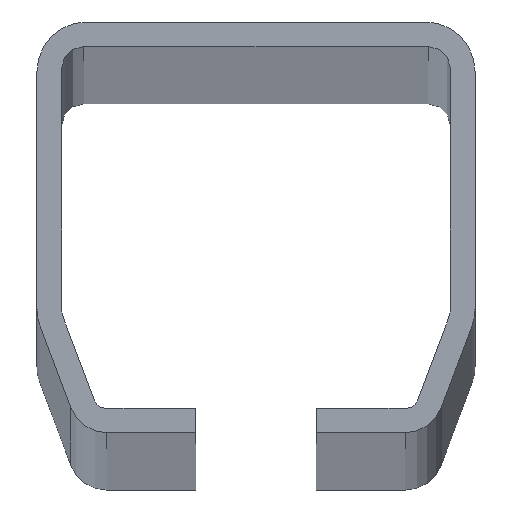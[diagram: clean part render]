
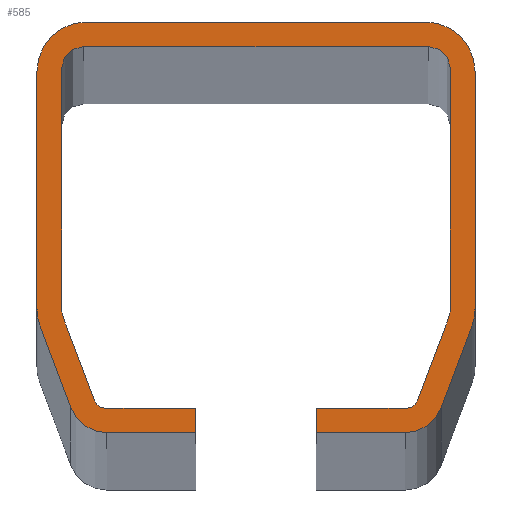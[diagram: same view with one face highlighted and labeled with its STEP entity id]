
A CAD part, top view. The second image highlights one B-rep face of the part: STEP entity #585.
In plain terms, the highlighted planar face has unit normal (0, 0, 1).
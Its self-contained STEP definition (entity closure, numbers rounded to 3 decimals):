
#31=PLANE('',#641);
#61=FACE_OUTER_BOUND('',#91,.T.);
#91=EDGE_LOOP('',(#489,#490,#491,#492,#493,#494,#495,#496,#497,#498,#499,
#500,#501,#502,#503,#504,#505,#506,#507,#508,#509,#510,#511,#512,#513,#514,
#515,#516));
#95=LINE('',#825,#155);
#99=LINE('',#837,#159);
#103=LINE('',#849,#163);
#107=LINE('',#861,#167);
#111=LINE('',#873,#171);
#115=LINE('',#885,#175);
#118=LINE('',#891,#178);
#121=LINE('',#897,#181);
#125=LINE('',#909,#185);
#129=LINE('',#921,#189);
#133=LINE('',#933,#193);
#137=LINE('',#945,#197);
#141=LINE('',#957,#201);
#145=LINE('',#969,#205);
#148=LINE('',#975,#208);
#151=LINE('',#980,#211);
#155=VECTOR('',#655,16.385);
#159=VECTOR('',#667,43.957);
#163=VECTOR('',#679,63.);
#167=VECTOR('',#691,43.957);
#171=VECTOR('',#703,16.385);
#175=VECTOR('',#715,16.614);
#178=VECTOR('',#720,4.5);
#181=VECTOR('',#725,16.268);
#185=VECTOR('',#737,15.948);
#189=VECTOR('',#749,43.367);
#193=VECTOR('',#761,62.);
#197=VECTOR('',#773,43.367);
#201=VECTOR('',#785,15.948);
#205=VECTOR('',#797,16.268);
#208=VECTOR('',#802,4.5);
#211=VECTOR('',#807,16.614);
#213=CIRCLE('',#590,2.);
#215=CIRCLE('',#594,4.);
#217=CIRCLE('',#598,4.);
#219=CIRCLE('',#602,4.);
#221=CIRCLE('',#606,4.);
#223=CIRCLE('',#610,2.);
#225=CIRCLE('',#616,7.);
#227=CIRCLE('',#620,9.);
#229=CIRCLE('',#624,9.);
#231=CIRCLE('',#628,9.);
#233=CIRCLE('',#632,9.);
#235=CIRCLE('',#636,7.);
#237=VERTEX_POINT('',#815);
#238=VERTEX_POINT('',#816);
#241=VERTEX_POINT('',#824);
#243=VERTEX_POINT('',#830);
#245=VERTEX_POINT('',#836);
#247=VERTEX_POINT('',#842);
#249=VERTEX_POINT('',#848);
#251=VERTEX_POINT('',#854);
#253=VERTEX_POINT('',#860);
#255=VERTEX_POINT('',#866);
#257=VERTEX_POINT('',#872);
#259=VERTEX_POINT('',#878);
#261=VERTEX_POINT('',#884);
#263=VERTEX_POINT('',#890);
#265=VERTEX_POINT('',#896);
#267=VERTEX_POINT('',#902);
#269=VERTEX_POINT('',#908);
#271=VERTEX_POINT('',#914);
#273=VERTEX_POINT('',#920);
#275=VERTEX_POINT('',#926);
#277=VERTEX_POINT('',#932);
#279=VERTEX_POINT('',#938);
#281=VERTEX_POINT('',#944);
#283=VERTEX_POINT('',#950);
#285=VERTEX_POINT('',#956);
#287=VERTEX_POINT('',#962);
#289=VERTEX_POINT('',#968);
#291=VERTEX_POINT('',#974);
#293=EDGE_CURVE('',#237,#238,#213,.T.);
#297=EDGE_CURVE('',#238,#241,#95,.T.);
#300=EDGE_CURVE('',#241,#243,#215,.T.);
#303=EDGE_CURVE('',#243,#245,#99,.T.);
#306=EDGE_CURVE('',#245,#247,#217,.T.);
#309=EDGE_CURVE('',#247,#249,#103,.T.);
#312=EDGE_CURVE('',#249,#251,#219,.T.);
#315=EDGE_CURVE('',#251,#253,#107,.T.);
#318=EDGE_CURVE('',#253,#255,#221,.T.);
#321=EDGE_CURVE('',#255,#257,#111,.T.);
#324=EDGE_CURVE('',#257,#259,#223,.T.);
#327=EDGE_CURVE('',#259,#261,#115,.T.);
#330=EDGE_CURVE('',#261,#263,#118,.T.);
#333=EDGE_CURVE('',#263,#265,#121,.T.);
#336=EDGE_CURVE('',#265,#267,#225,.T.);
#339=EDGE_CURVE('',#267,#269,#125,.T.);
#342=EDGE_CURVE('',#269,#271,#227,.T.);
#345=EDGE_CURVE('',#271,#273,#129,.T.);
#348=EDGE_CURVE('',#273,#275,#229,.T.);
#351=EDGE_CURVE('',#275,#277,#133,.T.);
#354=EDGE_CURVE('',#277,#279,#231,.T.);
#357=EDGE_CURVE('',#279,#281,#137,.T.);
#360=EDGE_CURVE('',#281,#283,#233,.T.);
#363=EDGE_CURVE('',#283,#285,#141,.T.);
#366=EDGE_CURVE('',#285,#287,#235,.T.);
#369=EDGE_CURVE('',#287,#289,#145,.T.);
#372=EDGE_CURVE('',#289,#291,#148,.T.);
#375=EDGE_CURVE('',#291,#237,#151,.T.);
#489=ORIENTED_EDGE('',*,*,#293,.F.);
#490=ORIENTED_EDGE('',*,*,#375,.F.);
#491=ORIENTED_EDGE('',*,*,#372,.F.);
#492=ORIENTED_EDGE('',*,*,#369,.F.);
#493=ORIENTED_EDGE('',*,*,#366,.F.);
#494=ORIENTED_EDGE('',*,*,#363,.F.);
#495=ORIENTED_EDGE('',*,*,#360,.F.);
#496=ORIENTED_EDGE('',*,*,#357,.F.);
#497=ORIENTED_EDGE('',*,*,#354,.F.);
#498=ORIENTED_EDGE('',*,*,#351,.F.);
#499=ORIENTED_EDGE('',*,*,#348,.F.);
#500=ORIENTED_EDGE('',*,*,#345,.F.);
#501=ORIENTED_EDGE('',*,*,#342,.F.);
#502=ORIENTED_EDGE('',*,*,#339,.F.);
#503=ORIENTED_EDGE('',*,*,#336,.F.);
#504=ORIENTED_EDGE('',*,*,#333,.F.);
#505=ORIENTED_EDGE('',*,*,#330,.F.);
#506=ORIENTED_EDGE('',*,*,#327,.F.);
#507=ORIENTED_EDGE('',*,*,#324,.F.);
#508=ORIENTED_EDGE('',*,*,#321,.F.);
#509=ORIENTED_EDGE('',*,*,#318,.F.);
#510=ORIENTED_EDGE('',*,*,#315,.F.);
#511=ORIENTED_EDGE('',*,*,#312,.F.);
#512=ORIENTED_EDGE('',*,*,#309,.F.);
#513=ORIENTED_EDGE('',*,*,#306,.F.);
#514=ORIENTED_EDGE('',*,*,#303,.F.);
#515=ORIENTED_EDGE('',*,*,#300,.F.);
#516=ORIENTED_EDGE('',*,*,#297,.F.);
#585=ADVANCED_FACE('',(#61),#31,.T.);
#590=AXIS2_PLACEMENT_3D('',#817,#647,#648);
#594=AXIS2_PLACEMENT_3D('',#831,#660,#661);
#598=AXIS2_PLACEMENT_3D('',#843,#672,#673);
#602=AXIS2_PLACEMENT_3D('',#855,#684,#685);
#606=AXIS2_PLACEMENT_3D('',#867,#696,#697);
#610=AXIS2_PLACEMENT_3D('',#879,#708,#709);
#616=AXIS2_PLACEMENT_3D('',#903,#730,#731);
#620=AXIS2_PLACEMENT_3D('',#915,#742,#743);
#624=AXIS2_PLACEMENT_3D('',#927,#754,#755);
#628=AXIS2_PLACEMENT_3D('',#939,#766,#767);
#632=AXIS2_PLACEMENT_3D('',#951,#778,#779);
#636=AXIS2_PLACEMENT_3D('',#963,#790,#791);
#641=AXIS2_PLACEMENT_3D('',#982,#809,#810);
#647=DIRECTION('center_axis',(0.,0.,1.));
#648=DIRECTION('ref_axis',(0.,-1.,0.));
#655=DIRECTION('',(0.351,0.936,0.));
#660=DIRECTION('center_axis',(0.,0.,1.));
#661=DIRECTION('ref_axis',(0.936,-0.351,0.));
#667=DIRECTION('',(0.,1.,0.));
#672=DIRECTION('center_axis',(0.,0.,1.));
#673=DIRECTION('ref_axis',(1.,0.,0.));
#679=DIRECTION('',(-1.,0.,0.));
#684=DIRECTION('center_axis',(0.,0.,1.));
#685=DIRECTION('ref_axis',(0.,1.,0.));
#691=DIRECTION('',(0.,-1.,0.));
#696=DIRECTION('center_axis',(0.,0.,1.));
#697=DIRECTION('ref_axis',(-1.,0.,0.));
#703=DIRECTION('',(0.351,-0.936,0.));
#708=DIRECTION('center_axis',(0.,0.,1.));
#709=DIRECTION('ref_axis',(-0.936,-0.351,0.));
#715=DIRECTION('',(1.,0.,0.));
#720=DIRECTION('',(0.,-1.,0.));
#725=DIRECTION('',(-1.,0.,0.));
#730=DIRECTION('center_axis',(0.,0.,-1.));
#731=DIRECTION('ref_axis',(0.936,0.351,0.));
#737=DIRECTION('',(-0.351,0.936,0.));
#742=DIRECTION('center_axis',(0.,0.,-1.));
#743=DIRECTION('ref_axis',(1.,0.,0.));
#749=DIRECTION('',(0.,1.,0.));
#754=DIRECTION('center_axis',(0.,0.,-1.));
#755=DIRECTION('ref_axis',(0.,-1.,0.));
#761=DIRECTION('',(1.,0.,0.));
#766=DIRECTION('center_axis',(0.,0.,-1.));
#767=DIRECTION('ref_axis',(-1.,0.,0.));
#773=DIRECTION('',(0.,-1.,0.));
#778=DIRECTION('center_axis',(0.,0.,-1.));
#779=DIRECTION('ref_axis',(-0.936,0.351,0.));
#785=DIRECTION('',(-0.351,-0.936,0.));
#790=DIRECTION('center_axis',(0.,0.,-1.));
#791=DIRECTION('ref_axis',(0.,1.,0.));
#797=DIRECTION('',(-1.,0.,0.));
#802=DIRECTION('',(0.,1.,0.));
#807=DIRECTION('',(1.,0.,0.));
#809=DIRECTION('center_axis',(0.,0.,1.));
#810=DIRECTION('ref_axis',(1.,0.,0.));
#815=CARTESIAN_POINT('',(27.614,-66.,6000.));
#816=CARTESIAN_POINT('',(29.487,-64.703,6000.));
#817=CARTESIAN_POINT('Origin',(27.614,-64.,6000.));
#824=CARTESIAN_POINT('',(35.245,-49.363,6000.));
#825=CARTESIAN_POINT('',(29.487,-64.703,6000.));
#830=CARTESIAN_POINT('',(35.5,-47.957,6000.));
#831=CARTESIAN_POINT('Origin',(31.5,-47.957,6000.));
#836=CARTESIAN_POINT('',(35.5,-4.,6000.));
#837=CARTESIAN_POINT('',(35.5,-47.957,6000.));
#842=CARTESIAN_POINT('',(31.5,0.,6000.));
#843=CARTESIAN_POINT('Origin',(31.5,-4.,6000.));
#848=CARTESIAN_POINT('',(-31.5,0.,6000.));
#849=CARTESIAN_POINT('',(31.5,0.,6000.));
#854=CARTESIAN_POINT('',(-35.5,-4.,6000.));
#855=CARTESIAN_POINT('Origin',(-31.5,-4.,6000.));
#860=CARTESIAN_POINT('',(-35.5,-47.957,6000.));
#861=CARTESIAN_POINT('',(-35.5,-4.,6000.));
#866=CARTESIAN_POINT('',(-35.245,-49.363,6000.));
#867=CARTESIAN_POINT('Origin',(-31.5,-47.957,6000.));
#872=CARTESIAN_POINT('',(-29.487,-64.703,6000.));
#873=CARTESIAN_POINT('',(-35.245,-49.363,6000.));
#878=CARTESIAN_POINT('',(-27.614,-66.,6000.));
#879=CARTESIAN_POINT('Origin',(-27.614,-64.,6000.));
#884=CARTESIAN_POINT('',(-11.,-66.,6000.));
#885=CARTESIAN_POINT('',(-27.614,-66.,6000.));
#890=CARTESIAN_POINT('',(-11.,-70.5,6000.));
#891=CARTESIAN_POINT('',(-11.,-66.,6000.));
#896=CARTESIAN_POINT('',(-27.268,-70.5,6000.));
#897=CARTESIAN_POINT('',(-11.,-70.5,6000.));
#902=CARTESIAN_POINT('',(-33.822,-65.96,6000.));
#903=CARTESIAN_POINT('Origin',(-27.268,-63.5,6000.));
#908=CARTESIAN_POINT('',(-39.426,-51.029,6000.));
#909=CARTESIAN_POINT('',(-33.822,-65.96,6000.));
#914=CARTESIAN_POINT('',(-40.,-47.867,6000.));
#915=CARTESIAN_POINT('Origin',(-31.,-47.867,6000.));
#920=CARTESIAN_POINT('',(-40.,-4.5,6000.));
#921=CARTESIAN_POINT('',(-40.,-47.867,6000.));
#926=CARTESIAN_POINT('',(-31.,4.5,6000.));
#927=CARTESIAN_POINT('Origin',(-31.,-4.5,6000.));
#932=CARTESIAN_POINT('',(31.,4.5,6000.));
#933=CARTESIAN_POINT('',(-31.,4.5,6000.));
#938=CARTESIAN_POINT('',(40.,-4.5,6000.));
#939=CARTESIAN_POINT('Origin',(31.,-4.5,6000.));
#944=CARTESIAN_POINT('',(40.,-47.867,6000.));
#945=CARTESIAN_POINT('',(40.,-4.5,6000.));
#950=CARTESIAN_POINT('',(39.426,-51.029,6000.));
#951=CARTESIAN_POINT('Origin',(31.,-47.867,6000.));
#956=CARTESIAN_POINT('',(33.822,-65.96,6000.));
#957=CARTESIAN_POINT('',(39.426,-51.029,6000.));
#962=CARTESIAN_POINT('',(27.268,-70.5,6000.));
#963=CARTESIAN_POINT('Origin',(27.268,-63.5,6000.));
#968=CARTESIAN_POINT('',(11.,-70.5,6000.));
#969=CARTESIAN_POINT('',(27.268,-70.5,6000.));
#974=CARTESIAN_POINT('',(11.,-66.,6000.));
#975=CARTESIAN_POINT('',(11.,-70.5,6000.));
#980=CARTESIAN_POINT('',(11.,-66.,6000.));
#982=CARTESIAN_POINT('Origin',(0.,-29.437,6000.));
